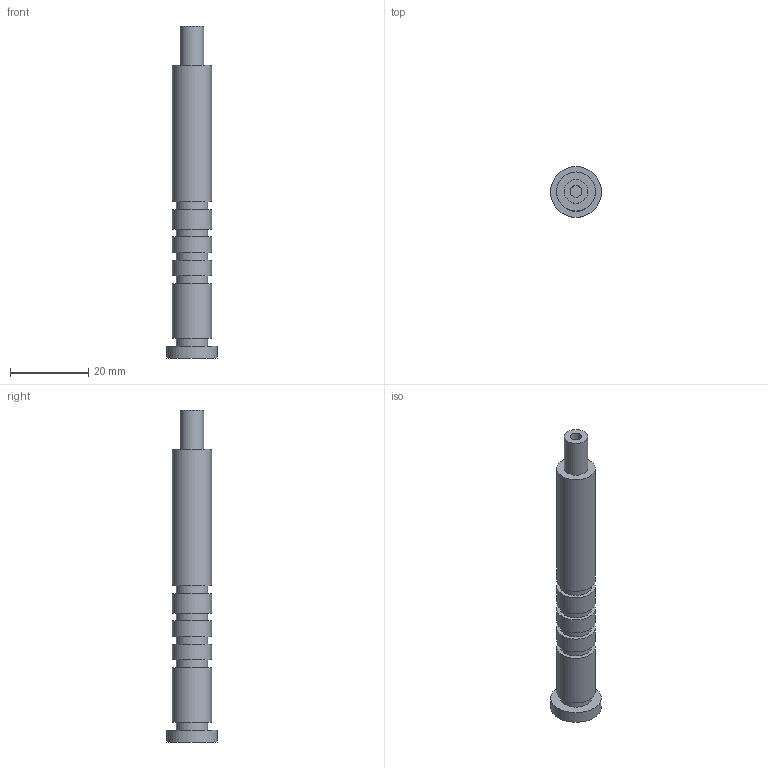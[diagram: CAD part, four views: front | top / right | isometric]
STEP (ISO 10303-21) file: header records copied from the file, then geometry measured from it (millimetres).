
FILE_DESCRIPTION(('STEP AP214'),'1');
FILE_NAME('1_Slice part_1.1.STEP','2024-10-24T10:55:22',(' '),('GO2cam international'),'Spatial InterOp 3D','GO2cam V6.11',' ');
FILE_SCHEMA(('AUTOMOTIVE_DESIGN { 1 0 10303 214 1 1 1 1 }'));
Length unit declared in the file: millimetre
Products named in the file (1): 1_Slice part_1
Bounding box: 13 x 13 x 85 mm (x, y, z)
Volume: 5862.2 mm3; surface area: 3312.8 mm2
Topology: 1 solids, 1 shells, 29 faces, 100 edges, 144 vertices
Faces by surface type: plane 15, cylinder 14
Full cylindrical faces by diameter (mm): 3 x2, 6 x1, 8 x5, 10 x5, 13 x1
Entity records: 1449 total; most frequent: DIRECTION 176, CARTESIAN_POINT 145, STYLED_ITEM 88, PRESENTATION_STYLE_ASSIGNMENT 88, COLOUR_RGB 88, CURVE_STYLE 86, DRAUGHTING_PRE_DEFINED_CURVE_FONT 86, AXIS2_PLACEMENT_3D 59
